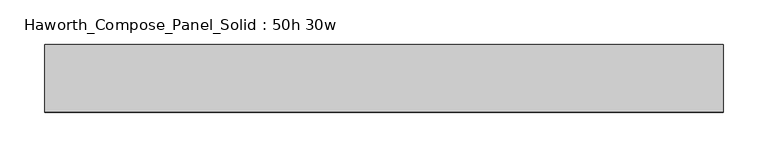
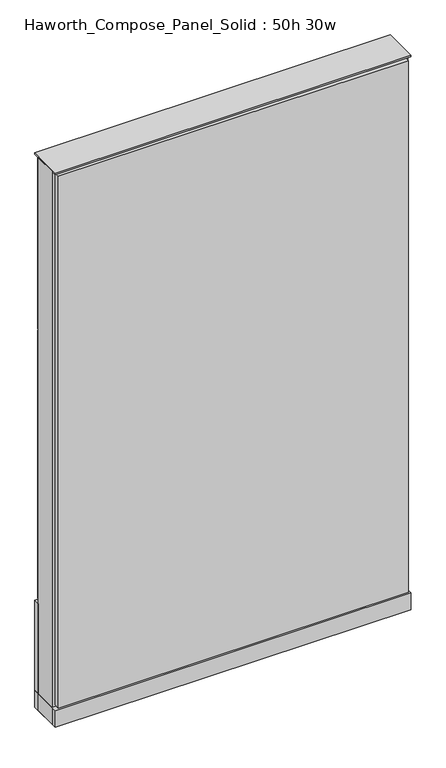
"""IFC4 building model written with IfcOpenShell, lengths in millimetres: furniture geometry, Haworth_Compose_Panel_Solid : 50h 30w."""

from ifc_helpers import new_model, si_unit, point, frame, frame_2d, origin, origin_with_axes, place, context, project, spatial, polyline, circle_curve, trimmed, segment, composite_curve, outline, extrude, source, transform, mapped, element, save


def haworth_compose_panel_solid_50h_30w_dea2f480(model_context):
    return source(origin(), model_context, "Body", "SweptSolid", [
        extrude(outline(composite_curve([segment(trimmed(circle_curve(frame_2d((-302.3597098, 0.0)), 12.7), [point((-315.0597098, 0.0))], [point((-289.6597098, 0.0))], False, "CARTESIAN"), True, "CONTINUOUS"), segment(trimmed(circle_curve(frame_2d((-302.3597098, 0.0)), 12.7), [point((-289.6597098, 0.0))], [point((-315.0597098, 0.0))], False, "CARTESIAN"), True, "CONTINUOUS")], self_intersect=False)), origin_with_axes(), (0.0, 0.0, 1.0), 12.7),
        extrude(outline(composite_curve([segment(trimmed(circle_curve(frame_2d((307.2402902, 0.0)), 12.7), [point((294.5402902, 0.0))], [point((319.9402902, 0.0))], False, "CARTESIAN"), True, "CONTINUOUS"), segment(trimmed(circle_curve(frame_2d((307.2402902, 0.0)), 12.7), [point((319.9402902, 0.0))], [point((294.5402902, 0.0))], False, "CARTESIAN"), True, "CONTINUOUS")], self_intersect=False)), origin_with_axes(), (0.0, 0.0, 1.0), 12.7),
        extrude(outline(polyline([(377.0902902, 38.1), (377.0902902, 25.4), (-372.2097098, 25.4), (-372.2097098, 38.1), (377.0902902, 38.1)])), frame((0.0, 0.0, 866.775), z_axis=(0.0, 0.0, 1.0), x_axis=(1.0, 0.0, 0.0)), (0.0, 0.0, 1.0), 390.525),
        extrude(outline(polyline([(377.0902902, 38.1), (377.0902902, 25.4), (-372.2097098, 25.4), (-372.2097098, 38.1), (377.0902902, 38.1)])), frame((0.0, 0.0, 257.175), z_axis=(0.0, 0.0, 1.0), x_axis=(1.0, 0.0, 0.0)), (0.0, 0.0, 1.0), 606.425),
        extrude(outline(polyline([(383.4402902, 38.1), (383.4402902, 25.4), (-378.5597098, 25.4), (-378.5597098, 38.1), (383.4402902, 38.1)])), frame((0.0, 0.0, 50.8), z_axis=(0.0, 0.0, 1.0), x_axis=(1.0, 0.0, 0.0)), (0.0, 0.0, 1.0), 203.2),
        extrude(outline(polyline([(377.0902902, -38.1), (-372.2097098, -38.1), (-372.2097098, -25.4), (377.0902902, -25.4), (377.0902902, -38.1)])), frame((0.0, 0.0, 53.975), z_axis=(0.0, 0.0, 1.0), x_axis=(1.0, 0.0, 0.0)), (0.0, 0.0, 1.0), 1203.325),
        extrude(outline(polyline([(383.4402902, 25.4), (383.4402902, -25.4), (-378.5597098, -25.4), (-378.5597098, 25.4), (383.4402902, 25.4)])), frame((0.0, 0.0, 12.7), z_axis=(0.0, 0.0, 1.0), x_axis=(1.0, 0.0, 0.0)), (0.0, 0.0, 1.0), 1250.95),
        extrude(outline(polyline([(-378.5597098, -38.1), (-378.5597098, 38.1), (383.4402902, 38.1), (383.4402902, -38.1), (-378.5597098, -38.1)])), frame((0.0, 0.0, 12.7), z_axis=(0.0, 0.0, 1.0), x_axis=(1.0, 0.0, 0.0)), (0.0, 0.0, 1.0), 38.1),
        extrude(outline(polyline([(-378.5597098, -38.1), (-378.5597098, 38.1), (383.4402902, 38.1), (383.4402902, -38.1), (-378.5597098, -38.1)])), frame((0.0, 0.0, 1263.65), z_axis=(0.0, 0.0, 1.0), x_axis=(1.0, 0.0, 0.0)), (0.0, 0.0, 1.0), 3.175),
    ])


if __name__ == "__main__":
    model = new_model("IFC4")
    model_context = context("Model", 3, world=origin())
    ifc_project = project(units=[si_unit("LENGTHUNIT", "METRE", prefix="MILLI")], contexts=[model_context])
    site = spatial("IfcSite", under=ifc_project)
    building = spatial("IfcBuilding", under=site)
    placement = place(None, origin())
    haworth_compose_panel_solid_50h_30w_shape = haworth_compose_panel_solid_50h_30w_dea2f480(model_context)
    element("IfcFurniture", 1, ObjectType="Haworth_Compose_Panel_Solid : 50h 30w", at=placement, inside=building, context=model_context, shape_type="MappedRepresentation", body=[
        mapped(haworth_compose_panel_solid_50h_30w_shape, transform((0.0, 0.0, 0.0), x_axis=(1.0, 0.0, 0.0), y_axis=(0.0, 1.0, 0.0), z_axis=(0.0, 0.0, 1.0))),
    ])
    save(model, "model.ifc")
